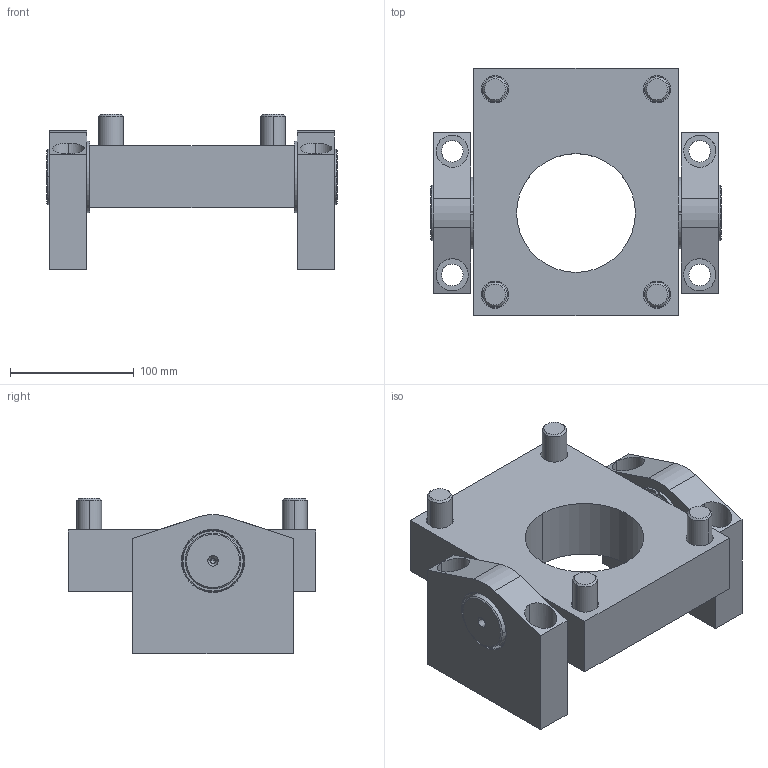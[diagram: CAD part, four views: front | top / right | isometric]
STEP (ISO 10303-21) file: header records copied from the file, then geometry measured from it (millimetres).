
FILE_DESCRIPTION (( 'STEP AP203' ), '1' );
FILE_NAME ('MJ5-KP(Z2)-SFK.STEP', '2024-01-16T10:18:43', ( '' ), ( '' ), 'SwSTEP 2.0', 'SolidWorks 2022', '' );
FILE_SCHEMA (( 'CONFIG_CONTROL_DESIGN' ));
Length unit declared in the file: millimetre
Products named in the file (1): MJ5-KP(Z2)-SFK
Bounding box: 235 x 200 x 125.6 mm (x, y, z)
Volume: 1976167 mm3; surface area: 279746.9 mm2
Topology: 9 solids, 9 shells, 220 faces, 530 edges, 336 vertices
Faces by surface type: plane 80, cylinder 76, cone 40, torus 24
Entity records: 6513 total; most frequent: CARTESIAN_POINT 1241, DIRECTION 1152, ORIENTED_EDGE 1036, EDGE_CURVE 518, AXIS2_PLACEMENT_3D 461, VERTEX_POINT 336, EDGE_LOOP 262, CIRCLE 240
